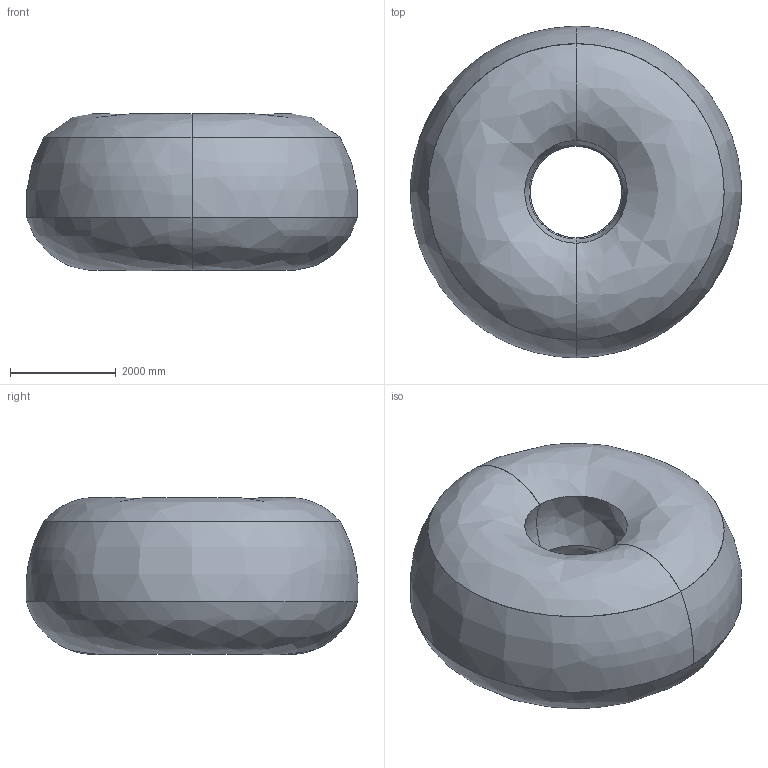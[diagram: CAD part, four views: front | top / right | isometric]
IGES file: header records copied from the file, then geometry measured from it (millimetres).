
Start section: SolidWorks IGES file using analytic representation for surfaces
Global section: file name: C:\Data\Lättmodeller\Nytt\660\IRB660_180-315_IRC5_rev03\IRB660_180-315_IRC5_rev03_IRC5_IGES_j\IRB660_180-315_WORKING-SPACE_rev00.IGS; native system: SolidWorks 2014; preprocessor: SolidWorks 2014; author: seadbov; date: 161202.130138; units: millimetre
Bounding box: 6267.99 x 6293.98 x 2980.3 mm (x, y, z)
Surface area: 107336157.8 mm2 (no closed solid volume)
Topology: 0 solids, 0 shells, 14 faces, 56 edges, 56 vertices
Faces by surface type: bspline 14
